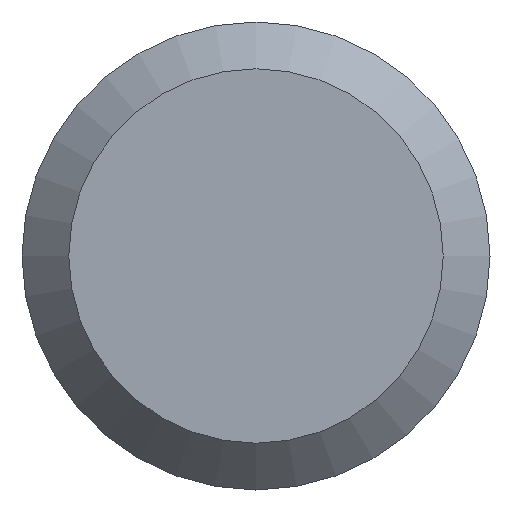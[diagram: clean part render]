
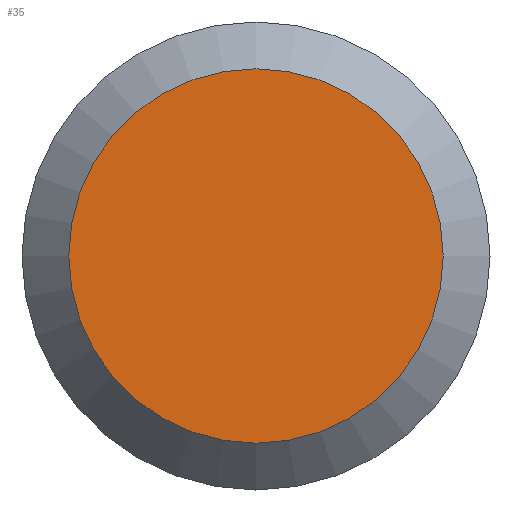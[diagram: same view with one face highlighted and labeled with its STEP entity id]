
A CAD part, left-side view. The second image highlights one B-rep face of the part: STEP entity #35.
In plain terms, the highlighted planar face has unit normal (-1, 0, 0).
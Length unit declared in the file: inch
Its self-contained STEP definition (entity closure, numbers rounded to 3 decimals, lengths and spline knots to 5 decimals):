
#1 = EDGE_LOOP ( 'NONE', ( #171 ) ) ;
#15 = DIRECTION ( 'NONE',  ( 0., 0., -1. ) ) ;
#28 = CIRCLE ( 'NONE', #235, 0.04375 ) ;
#30 = EDGE_CURVE ( 'NONE', #164, #164, #28, .T. ) ;
#35 = ADVANCED_FACE ( 'NONE', ( #77 ), #103, .F. ) ;
#38 = DIRECTION ( 'NONE',  ( 0., 0., -1. ) ) ;
#51 = CARTESIAN_POINT ( 'NONE',  ( 0., 0., -0.04375 ) ) ;
#64 = CARTESIAN_POINT ( 'NONE',  ( 0., 0.05469, 0. ) ) ;
#77 = FACE_OUTER_BOUND ( 'NONE', #1, .T. ) ;
#103 = PLANE ( 'NONE',  #219 ) ;
#106 = CARTESIAN_POINT ( 'NONE',  ( 0., 0., 0. ) ) ;
#152 = DIRECTION ( 'NONE',  ( -1., 0., 0. ) ) ;
#164 = VERTEX_POINT ( 'NONE', #51 ) ;
#171 = ORIENTED_EDGE ( 'NONE', *, *, #30, .T. ) ;
#182 = DIRECTION ( 'NONE',  ( 1., 0., 0. ) ) ;
#219 = AXIS2_PLACEMENT_3D ( 'NONE', #64, #182, #38 ) ;
#235 = AXIS2_PLACEMENT_3D ( 'NONE', #106, #152, #15 ) ;
